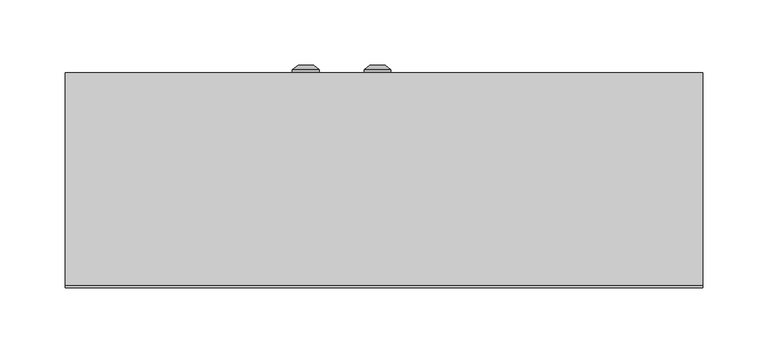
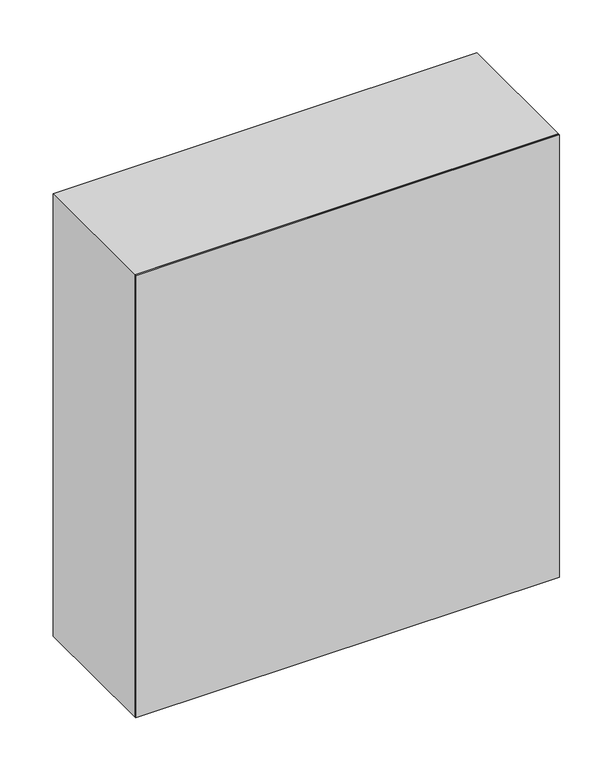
"""IFC4 building model written with IfcOpenShell, lengths in millimetres: proxy geometry, ЩУРН-3_30 : ЩУРН-3/30."""

from ifc_helpers import new_model, si_unit, point, frame, frame_2d, origin, origin_with_axes, place, context, project, spatial, polyline, circle_curve, trimmed, segment, composite_curve, outline, extrude, source, transform, mapped, element, save
from ifc_brep_helpers import plane_surface, cylinder_surface, revolved_surface, advanced_brep


def electrical_equipment_8d153149(model_context):
    return source(origin(), model_context, "Body", "SolidModel", [
        advanced_brep(
        [(-70.330127, 165.0, 270.0), (-49.669873, 165.0, 270.0), (-60.0, 165.0, 270.0), (-61.8919529, 171.0, 270.0), (-58.1080471, 171.0, 270.0), (-54.0, 171.0, 270.0), (-66.0, 171.0, 270.0), (-61.8919529, 169.9822294, 270.0), (-58.1080471, 169.9822294, 270.0), (-60.0, 169.9822294, 270.0), (-70.330127, 167.366592, 270.0), (-49.669873, 167.366592, 270.0)],
        [
            (0, 1, circle_curve(frame((-60.0, 165.0, 270.0), z_axis=(0.0, -1.0, 0.0), x_axis=(1.0, 0.0, 0.0)), 10.330127)),
            (1, 2),
            (2, 0),
            (1, 0, circle_curve(frame((-60.0, 165.0, 270.0), z_axis=(0.0, -1.0, 0.0), x_axis=(1.0, 0.0, 0.0)), 10.330127)),
            (3, 4, circle_curve(frame((-60.0, 171.0, 270.0), z_axis=(0.0, -1.0, 0.0), x_axis=(1.0, 0.0, 0.0)), 1.8919529)),
            (4, 5),
            (5, 6, circle_curve(frame((-60.0, 171.0, 270.0), z_axis=(0.0, 1.0, 0.0), x_axis=(1.0, 0.0, 0.0)), 6.0)),
            (6, 3),
            (4, 3, circle_curve(frame((-60.0, 171.0, 270.0), z_axis=(0.0, -1.0, 0.0), x_axis=(1.0, 0.0, 0.0)), 1.8919529)),
            (6, 5, circle_curve(frame((-60.0, 171.0, 270.0), z_axis=(0.0, 1.0, 0.0), x_axis=(1.0, 0.0, 0.0)), 6.0)),
            (7, 8, circle_curve(frame((-60.0, 169.9822294, 270.0), z_axis=(0.0, -1.0, 0.0), x_axis=(1.0, 0.0, 0.0)), 1.8919529)),
            (8, 4),
            (3, 7),
            (8, 7, circle_curve(frame((-60.0, 169.9822294, 270.0), z_axis=(0.0, -1.0, 0.0), x_axis=(1.0, 0.0, 0.0)), 1.8919529)),
            (9, 8),
            (7, 9),
            (10, 11, circle_curve(frame((-60.0, 167.366592, 270.0), z_axis=(0.0, -1.0, 0.0), x_axis=(1.0, 0.0, 0.0)), 10.330127)),
            (11, 1),
            (0, 10),
            (11, 10, circle_curve(frame((-60.0, 167.366592, 270.0), z_axis=(0.0, -1.0, 0.0), x_axis=(1.0, 0.0, 0.0)), 10.330127)),
            (5, 11),
            (10, 6),
        ],
        [
            plane_surface(frame((-60.0, 165.0, 270.0), z_axis=(0.0, -1.0, 0.0), x_axis=(1.0, 0.0, 0.0))),
            plane_surface(frame((-60.0, 171.0, 270.0), z_axis=(0.0, 1.0, 0.0), x_axis=(1.0, 0.0, 0.0))),
            revolved_surface(polyline([(-58.1080471, 171.0, 270.0), (-58.1080471, 169.9822294, 270.0)]), (-60.0, 178.1348851, 270.0), (0.0, 1.0, 0.0)),
            plane_surface(frame((-60.0, 169.9822294, 270.0), z_axis=(0.0, 1.0, 0.0), x_axis=(1.0, 0.0, 0.0))),
            cylinder_surface(frame((-60.0, 178.1348851, 270.0), z_axis=(0.0, 1.0, 0.0), x_axis=(1.0, 0.0, 0.0)), 10.330127),
            revolved_surface(polyline([(-49.669873, 167.366592, 270.0), (-54.0, 171.0, 270.0)]), (-60.0, 178.1348851, 270.0), (0.0, 1.0, 0.0)),
        ],
        [
            (0, [[1, 2, 3]]),
            (0, [[4, -3, -2]]),
            (1, [[5, 6, 7, 8]]),
            (1, [[9, -8, 10, -6]]),
            (2, [[11, 12, -5, 13]]),
            (2, [[14, -13, -9, -12]]),
            (3, [[15, -11, 16]]),
            (3, [[-16, -14, -15]]),
            (4, [[17, 18, -1, 19]]),
            (4, [[20, -19, -4, -18]]),
            (5, [[-7, 21, -17, 22]]),
            (5, [[-10, -22, -20, -21]]),
        ],
    ),
        advanced_brep(
        [(-15.330127, 165.0, 270.0), (5.330127, 165.0, 270.0), (-5.0, 165.0, 270.0), (-6.8919529, 171.0, 270.0), (-3.1080471, 171.0, 270.0), (1.0, 171.0, 270.0), (-11.0, 171.0, 270.0), (-6.8919529, 169.9822294, 270.0), (-3.1080471, 169.9822294, 270.0), (-5.0, 169.9822294, 270.0), (-15.330127, 167.366592, 270.0), (5.330127, 167.366592, 270.0)],
        [
            (0, 1, circle_curve(frame((-5.0, 165.0, 270.0), z_axis=(0.0, -1.0, 0.0), x_axis=(1.0, 0.0, 0.0)), 10.330127)),
            (1, 2),
            (2, 0),
            (1, 0, circle_curve(frame((-5.0, 165.0, 270.0), z_axis=(0.0, -1.0, 0.0), x_axis=(1.0, 0.0, 0.0)), 10.330127)),
            (3, 4, circle_curve(frame((-5.0, 171.0, 270.0), z_axis=(0.0, -1.0, 0.0), x_axis=(1.0, 0.0, 0.0)), 1.8919529)),
            (4, 5),
            (5, 6, circle_curve(frame((-5.0, 171.0, 270.0), z_axis=(0.0, 1.0, 0.0), x_axis=(1.0, 0.0, 0.0)), 6.0)),
            (6, 3),
            (4, 3, circle_curve(frame((-5.0, 171.0, 270.0), z_axis=(0.0, -1.0, 0.0), x_axis=(1.0, 0.0, 0.0)), 1.8919529)),
            (6, 5, circle_curve(frame((-5.0, 171.0, 270.0), z_axis=(0.0, 1.0, 0.0), x_axis=(1.0, 0.0, 0.0)), 6.0)),
            (7, 8, circle_curve(frame((-5.0, 169.9822294, 270.0), z_axis=(0.0, -1.0, 0.0), x_axis=(1.0, 0.0, 0.0)), 1.8919529)),
            (8, 4),
            (3, 7),
            (8, 7, circle_curve(frame((-5.0, 169.9822294, 270.0), z_axis=(0.0, -1.0, 0.0), x_axis=(1.0, 0.0, 0.0)), 1.8919529)),
            (9, 8),
            (7, 9),
            (10, 11, circle_curve(frame((-5.0, 167.366592, 270.0), z_axis=(0.0, -1.0, 0.0), x_axis=(1.0, 0.0, 0.0)), 10.330127)),
            (11, 1),
            (0, 10),
            (11, 10, circle_curve(frame((-5.0, 167.366592, 270.0), z_axis=(0.0, -1.0, 0.0), x_axis=(1.0, 0.0, 0.0)), 10.330127)),
            (5, 11),
            (10, 6),
        ],
        [
            plane_surface(frame((-5.0, 165.0, 270.0), z_axis=(0.0, -1.0, 0.0), x_axis=(1.0, 0.0, 0.0))),
            plane_surface(frame((-5.0, 171.0, 270.0), z_axis=(0.0, 1.0, 0.0), x_axis=(1.0, 0.0, 0.0))),
            revolved_surface(polyline([(-3.1080471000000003, 171.0, 270.0), (-3.1080471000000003, 169.9822294, 270.0)]), (-5.0, 178.1348851, 270.0), (0.0, 1.0, 0.0)),
            plane_surface(frame((-5.0, 169.9822294, 270.0), z_axis=(0.0, 1.0, 0.0), x_axis=(1.0, 0.0, 0.0))),
            cylinder_surface(frame((-5.0, 178.1348851, 270.0), z_axis=(0.0, 1.0, 0.0), x_axis=(1.0, 0.0, 0.0)), 10.330127),
            revolved_surface(polyline([(5.330127, 167.366592, 270.0), (1.0, 171.0, 270.0)]), (-5.0, 178.1348851, 270.0), (0.0, 1.0, 0.0)),
        ],
        [
            (0, [[1, 2, 3]]),
            (0, [[4, -3, -2]]),
            (1, [[5, 6, 7, 8]]),
            (1, [[9, -8, 10, -6]]),
            (2, [[11, 12, -5, 13]]),
            (2, [[14, -13, -9, -12]]),
            (3, [[15, -11, 16]]),
            (3, [[-16, -14, -15]]),
            (4, [[17, 18, -1, 19]]),
            (4, [[20, -19, -4, -18]]),
            (5, [[-7, 21, -17, 22]]),
            (5, [[-10, -22, -20, -21]]),
        ],
    ),
        extrude(outline(polyline([(-35.0, 163.0), (-229.0, 163.0), (-229.0, 165.0), (-35.0, 165.0), (-35.0, 163.0)])), frame((0.0, 0.0, 16.0), z_axis=(0.0, 0.0, 1.0), x_axis=(1.0, 0.0, 0.0)), (0.0, 0.0, 1.0), 508.0),
        extrude(outline(polyline([(524.0, -30.0), (16.0, -30.0), (16.0, 229.0), (524.0, 229.0), (524.0, -30.0)]), holes=[composite_curve([segment(polyline([(425.5, 55.0), (425.5, 85.0), (425.5, 115.0)]), True, "CONTINUOUS"), segment(trimmed(circle_curve(frame_2d((415.5, 115.0)), 10.0), [point((425.5, 115.0))], [point((415.5, 125.0))], True, "CARTESIAN"), True, "CONTINUOUS"), segment(polyline([(415.5, 125.0), (385.5, 125.0)]), True, "CONTINUOUS"), segment(trimmed(circle_curve(frame_2d((385.5, 115.0)), 10.0), [point((385.5, 125.0))], [point((375.5, 115.0))], True, "CARTESIAN"), True, "CONTINUOUS"), segment(polyline([(375.5, 115.0), (375.5, 55.0)]), True, "CONTINUOUS"), segment(trimmed(circle_curve(frame_2d((385.5, 55.0)), 10.0), [point((375.5, 55.0))], [point((385.5, 45.0))], True, "CARTESIAN"), True, "CONTINUOUS"), segment(polyline([(385.5, 45.0), (415.5, 45.0)]), True, "CONTINUOUS"), segment(trimmed(circle_curve(frame_2d((415.5, 55.0)), 10.0), [point((415.5, 45.0))], [point((425.5, 55.0))], True, "CARTESIAN"), True, "CONTINUOUS")], self_intersect=False)]), frame((0.0, 163.0, 0.0), z_axis=(0.0, 1.0, 0.0), x_axis=(0.0, 0.0, 1.0)), (0.0, 0.0, 1.0), 2.0),
        extrude(outline(polyline([(540.0, -245.0033905), (0.0, -245.0033905), (0.0, 244.9966095), (540.0, 244.9966095), (540.0, -245.0033905)]), holes=[polyline([(525.0, -230.0), (525.0, 230.0), (15.0, 230.0), (15.0, -230.0), (525.0, -230.0)])]), frame((0.0, 2.0, 0.0), z_axis=(0.0, 1.0, 0.0), x_axis=(0.0, 0.0, 1.0)), (0.0, 0.0, 1.0), 163.0),
        extrude(outline(polyline([(245.0, 0.0), (-245.0, 0.0), (-245.0, 2.0), (245.0, 2.0), (245.0, 0.0)])), origin_with_axes(), (0.0, 0.0, 1.0), 540.0),
    ])


if __name__ == "__main__":
    model = new_model("IFC4")
    model_context = context("Model", 3, world=origin())
    ifc_project = project(units=[si_unit("LENGTHUNIT", "METRE", prefix="MILLI")], contexts=[model_context])
    site = spatial("IfcSite", under=ifc_project)
    building = spatial("IfcBuilding", under=site)
    placement = place(None, origin())
    electrical_equipment_shape = electrical_equipment_8d153149(model_context)
    element("IfcBuildingElementProxy", 1, Name="ЩУРН-3_30 : ЩУРН-3/30", ObjectType="ЩУРН-3_30 : ЩУРН-3/30", at=placement, inside=building, context=model_context, shape_type="MappedRepresentation", body=[
        mapped(electrical_equipment_shape, transform((0.0, 0.0, 0.0), x_axis=(1.0, 0.0, 0.0), y_axis=(0.0, 1.0, 0.0), z_axis=(0.0, 0.0, 1.0))),
    ])
    save(model, "model.ifc")
